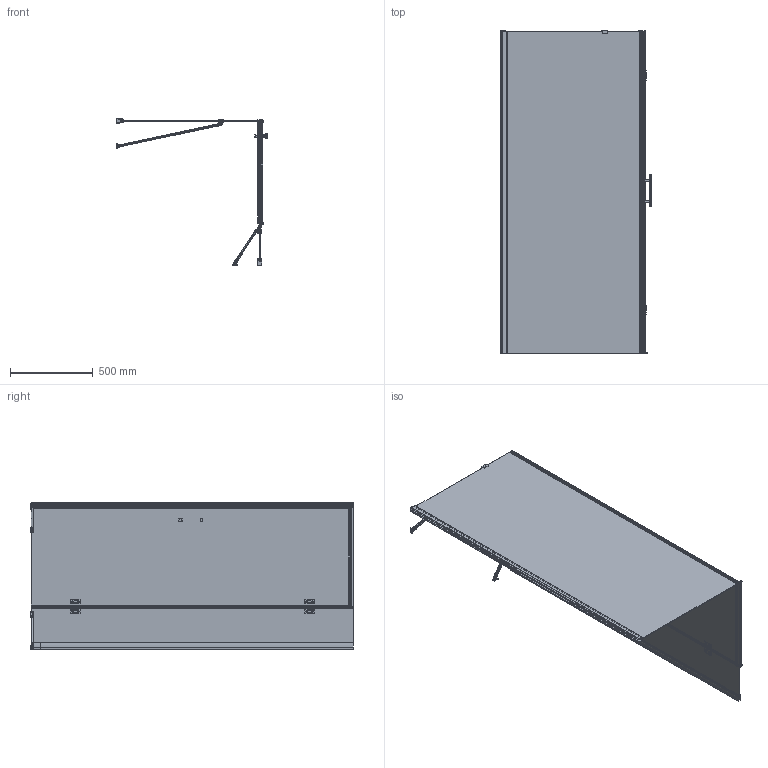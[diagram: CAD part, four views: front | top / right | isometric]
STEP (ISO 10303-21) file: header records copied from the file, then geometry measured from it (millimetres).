
FILE_DESCRIPTION(/* description */ (''),/* implementation_level */ '2;1');
FILE_NAME(/* name */ 'D:\Omnires\Export_Omnires\rys_step\5902539818949_stp.stp',/* time_stamp */ '2020-07-27T15:34:58+02:00',/* author */ (''),/* organization */ (''),/* preprocessor_version */ 'ST-DEVELOPER v18.1',/* originating_system */ 'Autodesk Inventor 2020',/* authorisation */ '');
FILE_SCHEMA (('AUTOMOTIVE_DESIGN { 1 0 10303 214 3 1 1 }'));
Products named in the file (1): 5902539818949_dwg
Bounding box: 920.1 x 1955.35 x 890.32 mm (x, y, z)
Surface area: 8767306.6 mm2 (no closed solid volume)
Topology: 0 solids, 55 shells, 3482 faces, 9155 edges, 5753 vertices
Faces by surface type: plane 1609, cylinder 901, bspline 801, torus 94, cone 57, sphere 20
Full cylindrical faces by diameter (mm): 1.85 x4, 2 x4, 2.264 x8, 2.544 x4, 3.5 x4, 3.6 x48, 4 x14, 4.2 x2, 5 x12, 5.1 x1, 5.992 x2, 6 x6, 6.5 x4, 7 x2, 7.2 x4, 7.5 x4, 8 x4, 8.5 x2, 9.6 x8, 10 x2, 10.8 x4, 11.452 x4, 11.8 x8
Entity records: 346633 total; most frequent: CARTESIAN_POINT 261589, ORIENTED_EDGE 18238, DIRECTION 14999, EDGE_CURVE 9119, VERTEX_POINT 5753, LINE 5107, VECTOR 5107, AXIS2_PLACEMENT_3D 4946
